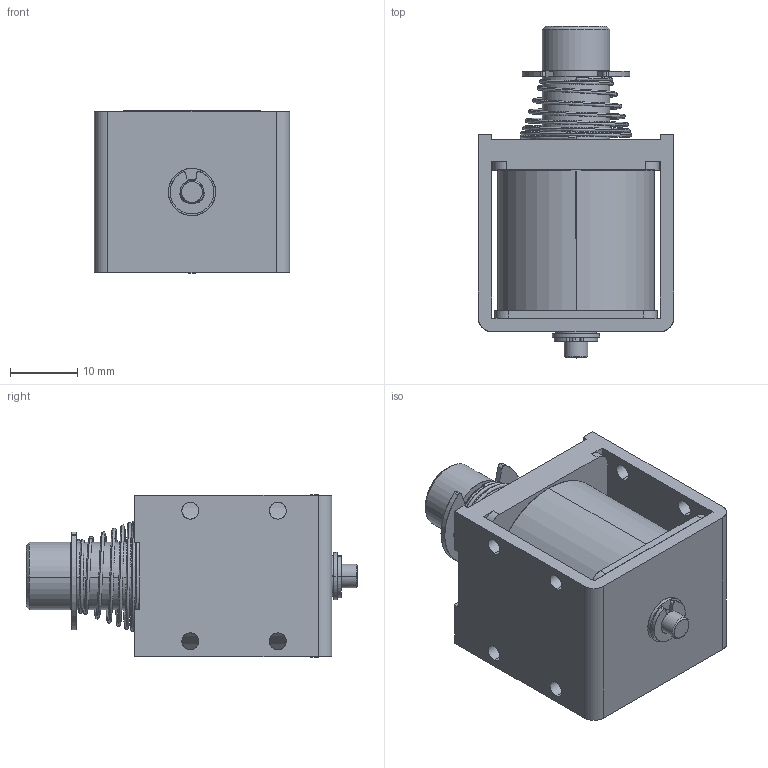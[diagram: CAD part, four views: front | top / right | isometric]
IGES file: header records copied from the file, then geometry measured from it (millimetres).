
Start section: SolidWorks IGES file using analytic representation for surfaces
Global section: file name: L:\カタログ\web用3Dデータ\CB1029A\3D_CB1029\w_cb1029.IGS; native system: SolidWorks 2014; preprocessor: SolidWorks 2014; author: jiba; date: 140718.133532; units: millimetre
Bounding box: 29 x 49.3 x 24.1 mm (x, y, z)
Surface area: 10223.1 mm2 (no closed solid volume)
Topology: 0 solids, 0 shells, 167 faces, 2704 edges, 2704 vertices
Faces by surface type: revolution 96, bspline 71
